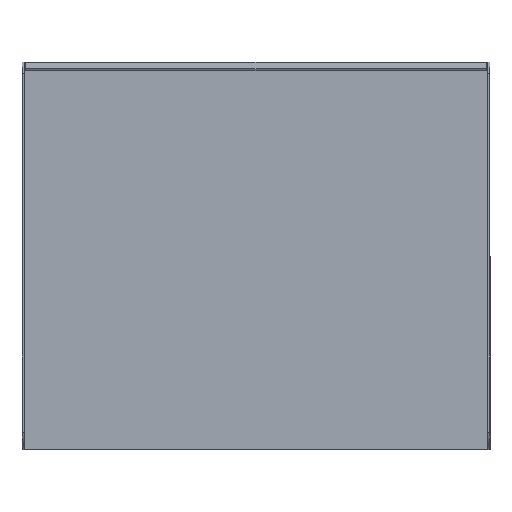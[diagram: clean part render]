
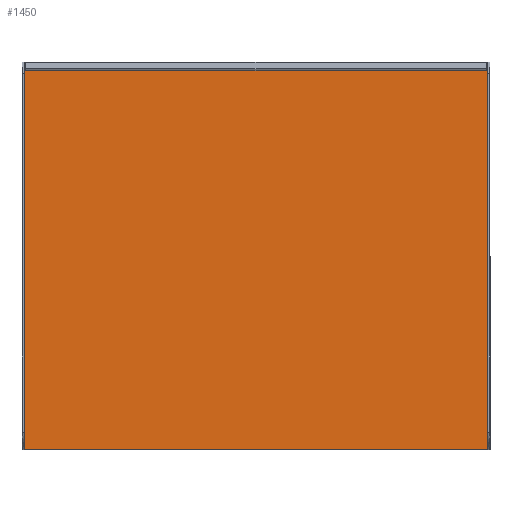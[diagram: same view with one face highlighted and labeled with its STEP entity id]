
A CAD part, front view. The second image highlights one B-rep face of the part: STEP entity #1450.
In plain terms, the highlighted planar face has unit normal (0, -1, 0).
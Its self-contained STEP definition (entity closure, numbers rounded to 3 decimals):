
#2 = CARTESIAN_POINT ( 'NONE',  ( 247., 0., 297. ) ) ;
#50 = FACE_OUTER_BOUND ( 'NONE', #1061, .T. ) ;
#187 = CARTESIAN_POINT ( 'NONE',  ( -247., 0., -297. ) ) ;
#229 = LINE ( 'NONE', #514, #1273 ) ;
#316 = AXIS2_PLACEMENT_3D ( 'NONE', #1517, #879, #473 ) ;
#342 = VECTOR ( 'NONE', #817, 1000. ) ;
#473 = DIRECTION ( 'NONE',  ( 0., 0., -1. ) ) ;
#507 = DIRECTION ( 'NONE',  ( 0., 0., 1. ) ) ;
#514 = CARTESIAN_POINT ( 'NONE',  ( -247., 0., 297. ) ) ;
#546 = VERTEX_POINT ( 'NONE', #2 ) ;
#562 = EDGE_CURVE ( 'NONE', #546, #1097, #1320, .T. ) ;
#566 = PLANE ( 'NONE',  #316 ) ;
#817 = DIRECTION ( 'NONE',  ( 0., 0., -1. ) ) ;
#821 = EDGE_CURVE ( 'NONE', #1673, #1201, #229, .T. ) ;
#822 = DIRECTION ( 'NONE',  ( 1., 0., 0. ) ) ;
#828 = LINE ( 'NONE', #1613, #1221 ) ;
#844 = ORIENTED_EDGE ( 'NONE', *, *, #821, .F. ) ;
#879 = DIRECTION ( 'NONE',  ( 0., -1., 0. ) ) ;
#932 = ORIENTED_EDGE ( 'NONE', *, *, #1681, .F. ) ;
#1050 = VECTOR ( 'NONE', #822, 1000. ) ;
#1061 = EDGE_LOOP ( 'NONE', ( #1682, #1290, #844, #932 ) ) ;
#1073 = DIRECTION ( 'NONE',  ( -1., 0., 0. ) ) ;
#1097 = VERTEX_POINT ( 'NONE', #1694 ) ;
#1201 = VERTEX_POINT ( 'NONE', #1209 ) ;
#1209 = CARTESIAN_POINT ( 'NONE',  ( -247., 0., 297. ) ) ;
#1221 = VECTOR ( 'NONE', #1073, 1000. ) ;
#1273 = VECTOR ( 'NONE', #507, 1000. ) ;
#1290 = ORIENTED_EDGE ( 'NONE', *, *, #1400, .F. ) ;
#1317 = LINE ( 'NONE', #1423, #1050 ) ;
#1320 = LINE ( 'NONE', #1578, #342 ) ;
#1400 = EDGE_CURVE ( 'NONE', #1201, #546, #1317, .T. ) ;
#1423 = CARTESIAN_POINT ( 'NONE',  ( -247., 0., 297. ) ) ;
#1450 = ADVANCED_FACE ( 'NONE', ( #50 ), #566, .T. ) ;
#1517 = CARTESIAN_POINT ( 'NONE',  ( 0., 0., 0. ) ) ;
#1578 = CARTESIAN_POINT ( 'NONE',  ( 247., 0., 297. ) ) ;
#1613 = CARTESIAN_POINT ( 'NONE',  ( -247., 0., -297. ) ) ;
#1673 = VERTEX_POINT ( 'NONE', #187 ) ;
#1681 = EDGE_CURVE ( 'NONE', #1097, #1673, #828, .T. ) ;
#1682 = ORIENTED_EDGE ( 'NONE', *, *, #562, .F. ) ;
#1694 = CARTESIAN_POINT ( 'NONE',  ( 247., 0., -297. ) ) ;
